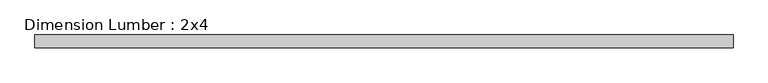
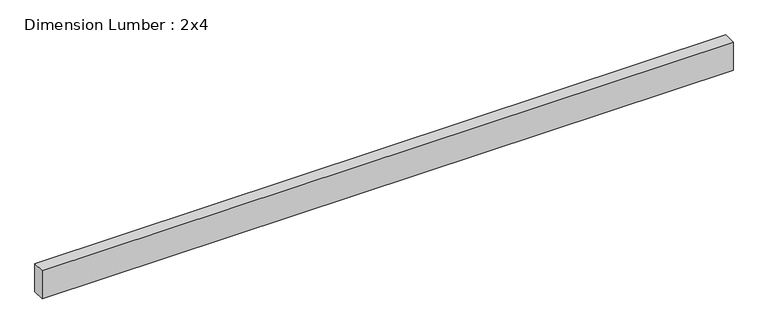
"""IFC4 building model written with IfcOpenShell, lengths in millimetres: beam geometry, Dimension Lumber : 2x4."""

from ifc_helpers import new_model, si_unit, frame, origin, place, context, project, spatial, polyline, outline, extrude, source, transform, mapped, element, save


def dimension_lumber_2x4_884f6b6e(model_context):
    return source(origin(), model_context, "Body", "SweptSolid", [
        extrude(outline(polyline([(1041.3934959, 19.05), (1041.3934959, -19.05), (-1041.3934959, -19.05), (-1041.3934959, 19.05), (1041.3934959, 19.05)])), frame((0.0, 0.0, -44.45), z_axis=(0.0, 0.0, 1.0), x_axis=(1.0, 0.0, 0.0)), (0.0, 0.0, 1.0), 88.9),
    ])


if __name__ == "__main__":
    model = new_model("IFC4")
    model_context = context("Model", 3, world=origin())
    ifc_project = project(units=[si_unit("LENGTHUNIT", "METRE", prefix="MILLI")], contexts=[model_context])
    site = spatial("IfcSite", under=ifc_project)
    building = spatial("IfcBuilding", under=site)
    placement = place(None, origin())
    dimension_lumber_2x4_shape = dimension_lumber_2x4_884f6b6e(model_context)
    element("IfcBeam", 1, ObjectType="Dimension Lumber : 2x4", at=placement, inside=building, context=model_context, shape_type="MappedRepresentation", body=[
        mapped(dimension_lumber_2x4_shape, transform((0.0, 0.0, 0.0), x_axis=(1.0, 0.0, 0.0), y_axis=(0.0, 1.0, 0.0), z_axis=(0.0, 0.0, 1.0))),
    ])
    save(model, "model.ifc")
